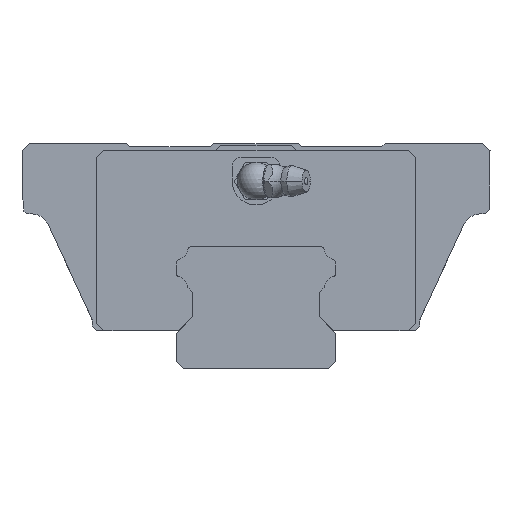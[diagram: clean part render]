
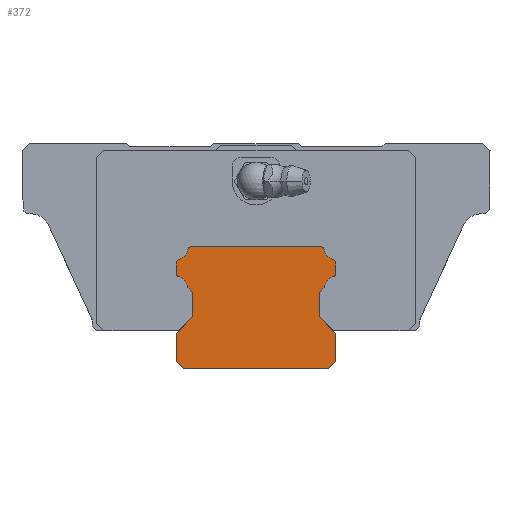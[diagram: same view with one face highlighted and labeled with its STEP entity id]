
A CAD part, front view. The second image highlights one B-rep face of the part: STEP entity #372.
In plain terms, the highlighted planar face has unit normal (0, -1, 0).
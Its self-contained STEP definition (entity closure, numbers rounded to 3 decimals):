
#372=ADVANCED_FACE('',(#880),#881,.T.);
#880=FACE_OUTER_BOUND('',#1460,.T.);
#881=PLANE('',#1461);
#1460=EDGE_LOOP('',(#3359,#3360,#3361,#3362,#3363,#3364,#3365,#3366,#3367,#3368,#3369,#3370,#3371,#3372,#3373,#3374,#3375,#3376,#3377,#3378,#3379,#3380,#3381,#3382));
#1461=AXIS2_PLACEMENT_3D('',#3383,#3384,#3385);
#3359=ORIENTED_EDGE('',*,*,#4488,.T.);
#3360=ORIENTED_EDGE('',*,*,#4489,.T.);
#3361=ORIENTED_EDGE('',*,*,#4490,.T.);
#3362=ORIENTED_EDGE('',*,*,#4491,.T.);
#3363=ORIENTED_EDGE('',*,*,#4492,.T.);
#3364=ORIENTED_EDGE('',*,*,#4493,.T.);
#3365=ORIENTED_EDGE('',*,*,#4494,.T.);
#3366=ORIENTED_EDGE('',*,*,#4495,.T.);
#3367=ORIENTED_EDGE('',*,*,#4476,.T.);
#3368=ORIENTED_EDGE('',*,*,#4496,.T.);
#3369=ORIENTED_EDGE('',*,*,#4497,.T.);
#3370=ORIENTED_EDGE('',*,*,#4498,.T.);
#3371=ORIENTED_EDGE('',*,*,#4499,.T.);
#3372=ORIENTED_EDGE('',*,*,#4500,.T.);
#3373=ORIENTED_EDGE('',*,*,#4501,.T.);
#3374=ORIENTED_EDGE('',*,*,#4502,.T.);
#3375=ORIENTED_EDGE('',*,*,#4503,.T.);
#3376=ORIENTED_EDGE('',*,*,#4504,.T.);
#3377=ORIENTED_EDGE('',*,*,#4505,.T.);
#3378=ORIENTED_EDGE('',*,*,#4506,.T.);
#3379=ORIENTED_EDGE('',*,*,#4464,.T.);
#3380=ORIENTED_EDGE('',*,*,#4507,.T.);
#3381=ORIENTED_EDGE('',*,*,#4508,.T.);
#3382=ORIENTED_EDGE('',*,*,#4509,.T.);
#3383=CARTESIAN_POINT('',(-16.2,-95.0,20.283));
#3384=DIRECTION('',(0.0,-1.0,0.0));
#3385=DIRECTION('',(0.0,0.0,-1.0));
#4464=EDGE_CURVE('',#5550,#5551,#5552,.T.);
#4476=EDGE_CURVE('',#5569,#5570,#5571,.T.);
#4488=EDGE_CURVE('',#5587,#5588,#5589,.T.);
#4489=EDGE_CURVE('',#5588,#5590,#5591,.T.);
#4490=EDGE_CURVE('',#5590,#5592,#5593,.T.);
#4491=EDGE_CURVE('',#5592,#5594,#5595,.T.);
#4492=EDGE_CURVE('',#5594,#5596,#5597,.T.);
#4493=EDGE_CURVE('',#5596,#5598,#5599,.T.);
#4494=EDGE_CURVE('',#5598,#5600,#5601,.T.);
#4495=EDGE_CURVE('',#5600,#5569,#5602,.T.);
#4496=EDGE_CURVE('',#5570,#5603,#5604,.T.);
#4497=EDGE_CURVE('',#5603,#5605,#5606,.T.);
#4498=EDGE_CURVE('',#5605,#5607,#5608,.T.);
#4499=EDGE_CURVE('',#5607,#5609,#5610,.T.);
#4500=EDGE_CURVE('',#5609,#5611,#5612,.T.);
#4501=EDGE_CURVE('',#5611,#5613,#5614,.T.);
#4502=EDGE_CURVE('',#5613,#5615,#5616,.T.);
#4503=EDGE_CURVE('',#5615,#5617,#5618,.T.);
#4504=EDGE_CURVE('',#5617,#5619,#5620,.T.);
#4505=EDGE_CURVE('',#5619,#5621,#5622,.T.);
#4506=EDGE_CURVE('',#5621,#5550,#5623,.T.);
#4507=EDGE_CURVE('',#5551,#5624,#5625,.T.);
#4508=EDGE_CURVE('',#5624,#5626,#5627,.T.);
#4509=EDGE_CURVE('',#5626,#5587,#5628,.T.);
#5550=VERTEX_POINT('',#7164);
#5551=VERTEX_POINT('',#7165);
#5552=LINE('',#7166,#7167);
#5569=VERTEX_POINT('',#7187);
#5570=VERTEX_POINT('',#7188);
#5571=LINE('',#7189,#7190);
#5587=VERTEX_POINT('',#7209);
#5588=VERTEX_POINT('',#7210);
#5589=LINE('',#7211,#7212);
#5590=VERTEX_POINT('',#7213);
#5591=CIRCLE('',#7214,0.8);
#5592=VERTEX_POINT('',#7215);
#5593=CIRCLE('',#7216,2.6);
#5594=VERTEX_POINT('',#7217);
#5595=LINE('',#7218,#7219);
#5596=VERTEX_POINT('',#7220);
#5597=LINE('',#7221,#7222);
#5598=VERTEX_POINT('',#7223);
#5599=LINE('',#7224,#7225);
#5600=VERTEX_POINT('',#7226);
#5601=LINE('',#7227,#7228);
#5602=LINE('',#7229,#7230);
#5603=VERTEX_POINT('',#7231);
#5604=LINE('',#7232,#7233);
#5605=VERTEX_POINT('',#7234);
#5606=LINE('',#7235,#7236);
#5607=VERTEX_POINT('',#7237);
#5608=LINE('',#7238,#7239);
#5609=VERTEX_POINT('',#7240);
#5610=LINE('',#7241,#7242);
#5611=VERTEX_POINT('',#7243);
#5612=LINE('',#7244,#7245);
#5613=VERTEX_POINT('',#7246);
#5614=CIRCLE('',#7247,2.6);
#5615=VERTEX_POINT('',#7248);
#5616=CIRCLE('',#7249,0.8);
#5617=VERTEX_POINT('',#7250);
#5618=LINE('',#7251,#7252);
#5619=VERTEX_POINT('',#7253);
#5620=CIRCLE('',#7254,0.8);
#5621=VERTEX_POINT('',#7255);
#5622=CIRCLE('',#7256,2.6);
#5623=CIRCLE('',#7257,0.8);
#5624=VERTEX_POINT('',#7258);
#5625=CIRCLE('',#7259,0.8);
#5626=VERTEX_POINT('',#7260);
#5627=CIRCLE('',#7261,2.6);
#5628=CIRCLE('',#7262,0.8);
#7164=CARTESIAN_POINT('',(13.785,-95.0,26.0));
#7165=CARTESIAN_POINT('',(-13.785,-95.0,26.0));
#7166=CARTESIAN_POINT('',(13.785,-95.0,26.0));
#7167=VECTOR('',#8621,1000.0);
#7187=CARTESIAN_POINT('',(-15.5,-95.0,0.));
#7188=CARTESIAN_POINT('',(15.5,-95.0,0.0));
#7189=CARTESIAN_POINT('',(-15.5,-95.0,0.0));
#7190=VECTOR('',#8649,1000.0);
#7209=CARTESIAN_POINT('',(-17.0,-95.0,22.517));
#7210=CARTESIAN_POINT('',(-17.0,-95.0,20.283));
#7211=CARTESIAN_POINT('',(-17.0,-95.0,22.517));
#7212=VECTOR('',#8677,1000.0);
#7213=CARTESIAN_POINT('',(-16.42,-95.0,19.514));
#7214=AXIS2_PLACEMENT_3D('',#8678,#8679,#8680);
#7215=CARTESIAN_POINT('',(-14.545,-95.0,17.245));
#7216=AXIS2_PLACEMENT_3D('',#8681,#8682,#8683);
#7217=CARTESIAN_POINT('',(-13.5,-95.0,16.2));
#7218=CARTESIAN_POINT('',(-14.545,-95.0,17.245));
#7219=VECTOR('',#8684,1000.0);
#7220=CARTESIAN_POINT('',(-13.5,-95.0,11.));
#7221=CARTESIAN_POINT('',(-13.5,-95.0,16.2));
#7222=VECTOR('',#8685,1000.0);
#7223=CARTESIAN_POINT('',(-17.0,-95.0,7.5));
#7224=CARTESIAN_POINT('',(-13.5,-95.0,11.));
#7225=VECTOR('',#8686,1000.0);
#7226=CARTESIAN_POINT('',(-17.0,-95.0,1.5));
#7227=CARTESIAN_POINT('',(-17.0,-95.0,7.5));
#7228=VECTOR('',#8687,1000.0);
#7229=CARTESIAN_POINT('',(-17.0,-95.0,1.5));
#7230=VECTOR('',#8688,1000.0);
#7231=CARTESIAN_POINT('',(17.0,-95.0,1.5));
#7232=CARTESIAN_POINT('',(15.5,-95.0,0.0));
#7233=VECTOR('',#8689,1000.0);
#7234=CARTESIAN_POINT('',(17.0,-95.0,7.5));
#7235=CARTESIAN_POINT('',(17.0,-95.0,1.5));
#7236=VECTOR('',#8690,1000.0);
#7237=CARTESIAN_POINT('',(13.5,-95.0,11.));
#7238=CARTESIAN_POINT('',(17.0,-95.0,7.5));
#7239=VECTOR('',#8691,1000.0);
#7240=CARTESIAN_POINT('',(13.5,-95.0,16.2));
#7241=CARTESIAN_POINT('',(13.5,-95.0,11.));
#7242=VECTOR('',#8692,1000.0);
#7243=CARTESIAN_POINT('',(14.545,-95.0,17.245));
#7244=CARTESIAN_POINT('',(13.5,-95.0,16.2));
#7245=VECTOR('',#8693,1000.0);
#7246=CARTESIAN_POINT('',(16.42,-95.0,19.514));
#7247=AXIS2_PLACEMENT_3D('',#8694,#8695,#8696);
#7248=CARTESIAN_POINT('',(17.0,-95.0,20.283));
#7249=AXIS2_PLACEMENT_3D('',#8697,#8698,#8699);
#7250=CARTESIAN_POINT('',(17.0,-95.0,22.517));
#7251=CARTESIAN_POINT('',(17.0,-95.0,20.283));
#7252=VECTOR('',#8700,1000.0);
#7253=CARTESIAN_POINT('',(16.42,-95.0,23.286));
#7254=AXIS2_PLACEMENT_3D('',#8701,#8702,#8703);
#7255=CARTESIAN_POINT('',(14.573,-95.0,25.338));
#7256=AXIS2_PLACEMENT_3D('',#8704,#8705,#8706);
#7257=AXIS2_PLACEMENT_3D('',#8707,#8708,#8709);
#7258=CARTESIAN_POINT('',(-14.573,-95.0,25.338));
#7259=AXIS2_PLACEMENT_3D('',#8710,#8711,#8712);
#7260=CARTESIAN_POINT('',(-16.42,-95.0,23.286));
#7261=AXIS2_PLACEMENT_3D('',#8713,#8714,#8715);
#7262=AXIS2_PLACEMENT_3D('',#8716,#8717,#8718);
#8621=DIRECTION('',(-1.0,0.0,0.0));
#8649=DIRECTION('',(1.0,0.0,0.0));
#8677=DIRECTION('',(0.0,0.0,-1.0));
#8678=CARTESIAN_POINT('',(-16.2,-95.0,20.283));
#8679=DIRECTION('',(0.0,-1.0,0.0));
#8680=DIRECTION('',(1.0,0.0,0.0));
#8681=CARTESIAN_POINT('',(-17.134,-95.0,17.014));
#8682=DIRECTION('',(0.0,1.0,0.));
#8683=DIRECTION('',(1.0,0.0,0.0));
#8684=DIRECTION('',(0.707,0.0,-0.707));
#8685=DIRECTION('',(0.0,0.0,-1.0));
#8686=DIRECTION('',(-0.707,0.0,-0.707));
#8687=DIRECTION('',(0.0,0.0,-1.0));
#8688=DIRECTION('',(0.707,0.0,-0.707));
#8689=DIRECTION('',(0.707,0.0,0.707));
#8690=DIRECTION('',(0.0,0.0,1.0));
#8691=DIRECTION('',(-0.707,0.0,0.707));
#8692=DIRECTION('',(0.0,0.0,1.0));
#8693=DIRECTION('',(0.707,0.0,0.707));
#8694=CARTESIAN_POINT('',(17.134,-95.0,17.014));
#8695=DIRECTION('',(0.0,1.0,0.));
#8696=DIRECTION('',(1.0,0.0,0.0));
#8697=CARTESIAN_POINT('',(16.2,-95.0,20.283));
#8698=DIRECTION('',(0.0,-1.0,0.0));
#8699=DIRECTION('',(1.0,0.0,0.0));
#8700=DIRECTION('',(0.0,0.0,1.0));
#8701=CARTESIAN_POINT('',(16.2,-95.0,22.517));
#8702=DIRECTION('',(0.0,-1.0,0.0));
#8703=DIRECTION('',(1.0,0.0,0.0));
#8704=CARTESIAN_POINT('',(17.134,-95.0,25.786));
#8705=DIRECTION('',(0.0,1.0,0.));
#8706=DIRECTION('',(1.0,0.0,0.0));
#8707=CARTESIAN_POINT('',(13.785,-95.0,25.2));
#8708=DIRECTION('',(0.0,-1.0,0.0));
#8709=DIRECTION('',(1.0,0.0,0.0));
#8710=CARTESIAN_POINT('',(-13.785,-95.0,25.2));
#8711=DIRECTION('',(0.0,-1.0,0.0));
#8712=DIRECTION('',(1.0,0.0,0.0));
#8713=CARTESIAN_POINT('',(-17.134,-95.0,25.786));
#8714=DIRECTION('',(0.0,1.0,0.));
#8715=DIRECTION('',(1.0,0.0,0.0));
#8716=CARTESIAN_POINT('',(-16.2,-95.0,22.517));
#8717=DIRECTION('',(0.0,-1.0,0.0));
#8718=DIRECTION('',(1.0,0.0,0.0));
